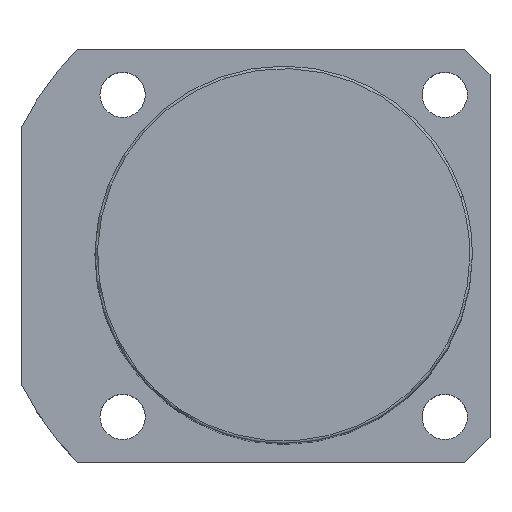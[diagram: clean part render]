
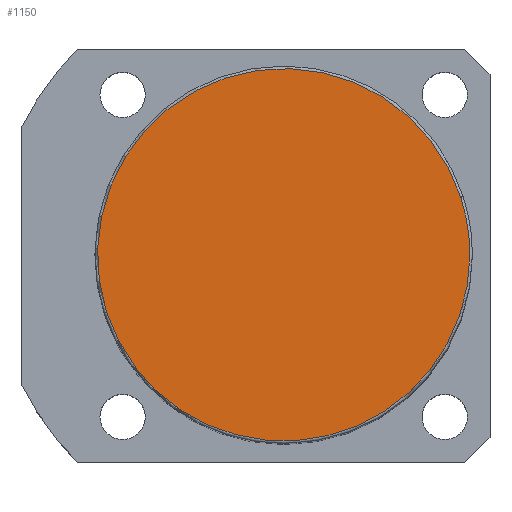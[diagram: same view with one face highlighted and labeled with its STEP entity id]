
A CAD part, top view. The second image highlights one B-rep face of the part: STEP entity #1150.
In plain terms, the highlighted planar face has unit normal (0, 0, 1).
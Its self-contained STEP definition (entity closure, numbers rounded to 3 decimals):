
#1116=CARTESIAN_POINT('',(37.0,0.0,138.0));
#1117=VERTEX_POINT('',#1116);
#1118=CARTESIAN_POINT('',(35.189,11.434,138.0));
#1119=VERTEX_POINT('',#1118);
#1120=CARTESIAN_POINT('',(0.0,0.0,138.0));
#1121=DIRECTION('',(0.0,0.0,1.0));
#1122=DIRECTION('',(1.0,0.0,0.0));
#1123=AXIS2_PLACEMENT_3D('',#1120,#1121,#1122);
#1124=CIRCLE('',#1123,37.0);
#1125=EDGE_CURVE('no 1716',#1117,#1119,#1124,.T.);
#1126=ORIENTED_EDGE('',*,*,#1125,.T.);
#1127=CARTESIAN_POINT('',(-35.189,-11.434,138.0));
#1128=VERTEX_POINT('',#1127);
#1129=CARTESIAN_POINT('',(0.0,0.0,138.0));
#1130=DIRECTION('',(0.0,0.0,1.0));
#1131=DIRECTION('',(1.0,0.0,0.0));
#1132=AXIS2_PLACEMENT_3D('',#1129,#1130,#1131);
#1133=CIRCLE('',#1132,37.0);
#1134=EDGE_CURVE('no 1722',#1119,#1128,#1133,.T.);
#1135=ORIENTED_EDGE('',*,*,#1134,.T.);
#1136=CARTESIAN_POINT('',(0.0,0.0,138.0));
#1137=DIRECTION('',(0.0,0.0,1.0));
#1138=DIRECTION('',(1.0,0.0,0.0));
#1139=AXIS2_PLACEMENT_3D('',#1136,#1137,#1138);
#1140=CIRCLE('',#1139,37.0);
#1141=EDGE_CURVE('no 1726',#1128,#1117,#1140,.T.);
#1142=ORIENTED_EDGE('',*,*,#1141,.T.);
#1143=EDGE_LOOP('',(#1126,#1135,#1142));
#1144=FACE_OUTER_BOUND('',#1143,.T.);
#1145=CARTESIAN_POINT('',(0.0,0.0,138.0));
#1146=DIRECTION('',(0.0,0.0,1.0));
#1147=DIRECTION('',(1.0,0.0,0.0));
#1148=AXIS2_PLACEMENT_3D('',#1145,#1146,#1147);
#1149=PLANE('',#1148);
#1150=ADVANCED_FACE('no 1707',(#1144),#1149,.T.);
